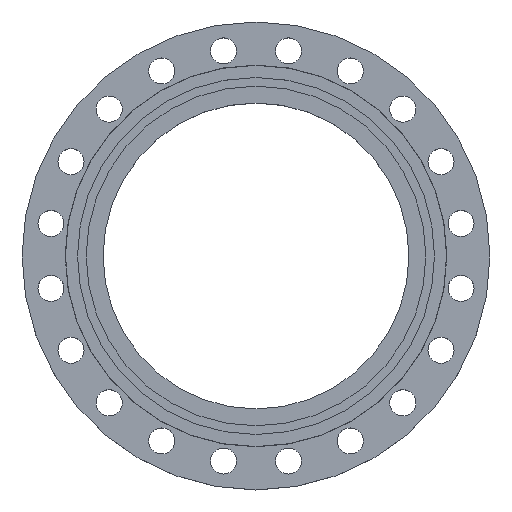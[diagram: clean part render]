
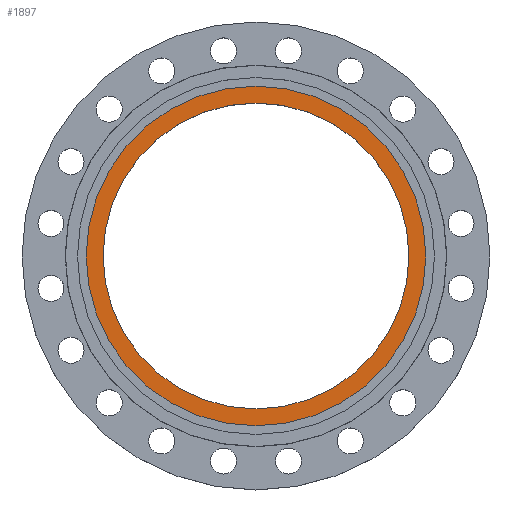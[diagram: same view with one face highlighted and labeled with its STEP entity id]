
A CAD part, top view. The second image highlights one B-rep face of the part: STEP entity #1897.
In plain terms, the highlighted planar face has unit normal (0, 0, 1).
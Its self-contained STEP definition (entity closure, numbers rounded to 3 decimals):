
#61 = VERTEX_POINT ( 'NONE', #1318 ) ;
#103 = DIRECTION ( 'NONE',  ( -1., 0., 0. ) ) ;
#152 = DIRECTION ( 'NONE',  ( 0., 0., -1. ) ) ;
#173 = VERTEX_POINT ( 'NONE', #1527 ) ;
#204 = DIRECTION ( 'NONE',  ( 1., 0., 0. ) ) ;
#218 = CARTESIAN_POINT ( 'NONE',  ( 0., 0., 0. ) ) ;
#365 = PLANE ( 'NONE',  #874 ) ;
#444 = EDGE_LOOP ( 'NONE', ( #859, #615 ) ) ;
#462 = AXIS2_PLACEMENT_3D ( 'NONE', #218, #885, #1528 ) ;
#505 = DIRECTION ( 'NONE',  ( 0., 0., 1. ) ) ;
#557 = ORIENTED_EDGE ( 'NONE', *, *, #1211, .F. ) ;
#615 = ORIENTED_EDGE ( 'NONE', *, *, #1440, .F. ) ;
#807 = CIRCLE ( 'NONE', #912, 274. ) ;
#811 = DIRECTION ( 'NONE',  ( -1., 0., 0. ) ) ;
#815 = EDGE_CURVE ( 'NONE', #61, #173, #1328, .T. ) ;
#859 = ORIENTED_EDGE ( 'NONE', *, *, #815, .F. ) ;
#874 = AXIS2_PLACEMENT_3D ( 'NONE', #1031, #1659, #204 ) ;
#885 = DIRECTION ( 'NONE',  ( 0., 0., 1. ) ) ;
#912 = AXIS2_PLACEMENT_3D ( 'NONE', #929, #1564, #103 ) ;
#929 = CARTESIAN_POINT ( 'NONE',  ( 0., 0., 0. ) ) ;
#989 = CARTESIAN_POINT ( 'NONE',  ( 274., 0., 0. ) ) ;
#1031 = CARTESIAN_POINT ( 'NONE',  ( 0., 0., 0. ) ) ;
#1162 = DIRECTION ( 'NONE',  ( 1., 0., 0. ) ) ;
#1185 = FACE_BOUND ( 'NONE', #444, .T. ) ;
#1211 = EDGE_CURVE ( 'NONE', #1781, #1532, #1810, .T. ) ;
#1318 = CARTESIAN_POINT ( 'NONE',  ( 246.752, 0., 0. ) ) ;
#1328 = CIRCLE ( 'NONE', #1338, 246.752 ) ;
#1338 = AXIS2_PLACEMENT_3D ( 'NONE', #1929, #505, #1162 ) ;
#1378 = CIRCLE ( 'NONE', #462, 246.752 ) ;
#1440 = EDGE_CURVE ( 'NONE', #173, #61, #1378, .T. ) ;
#1527 = CARTESIAN_POINT ( 'NONE',  ( -246.752, 0., 0. ) ) ;
#1528 = DIRECTION ( 'NONE',  ( 1., 0., 0. ) ) ;
#1532 = VERTEX_POINT ( 'NONE', #1998 ) ;
#1560 = EDGE_CURVE ( 'NONE', #1532, #1781, #807, .T. ) ;
#1564 = DIRECTION ( 'NONE',  ( 0., 0., -1. ) ) ;
#1600 = CARTESIAN_POINT ( 'NONE',  ( 0., 0., 0. ) ) ;
#1659 = DIRECTION ( 'NONE',  ( 0., 0., 1. ) ) ;
#1703 = ORIENTED_EDGE ( 'NONE', *, *, #1560, .F. ) ;
#1781 = VERTEX_POINT ( 'NONE', #989 ) ;
#1810 = CIRCLE ( 'NONE', #1836, 274. ) ;
#1813 = FACE_OUTER_BOUND ( 'NONE', #1857, .T. ) ;
#1836 = AXIS2_PLACEMENT_3D ( 'NONE', #1600, #152, #811 ) ;
#1857 = EDGE_LOOP ( 'NONE', ( #1703, #557 ) ) ;
#1897 = ADVANCED_FACE ( 'NONE', ( #1185, #1813 ), #365, .T. ) ;
#1929 = CARTESIAN_POINT ( 'NONE',  ( 0., 0., 0. ) ) ;
#1998 = CARTESIAN_POINT ( 'NONE',  ( -274., 0., 0. ) ) ;
